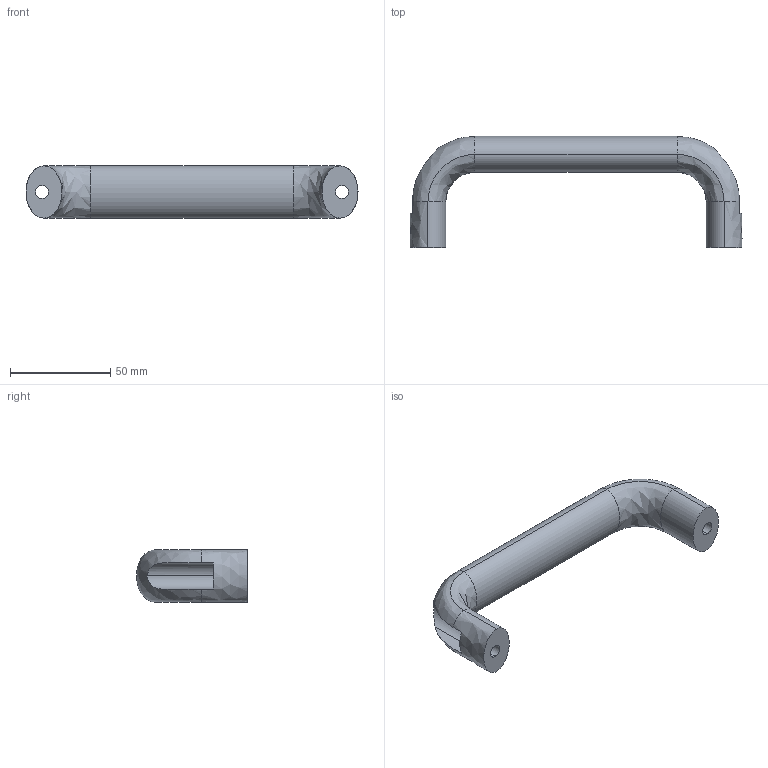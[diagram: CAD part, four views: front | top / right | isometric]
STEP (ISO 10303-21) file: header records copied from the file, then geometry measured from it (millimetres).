
FILE_DESCRIPTION (( 'STEP AP214' ), '1' );
FILE_NAME ('HDL2-06.STEP', '2014-10-15T05:10:38', ( '' ), ( '' ), 'SwSTEP 2.0', 'SolidWorks 2014', '' );
FILE_SCHEMA (( 'AUTOMOTIVE_DESIGN' ));
Length unit declared in the file: millimetre
Products named in the file (1): HDL2-06
Bounding box: 165.99 x 55.49 x 26 mm (x, y, z)
Volume: 71320.5 mm3; surface area: 17999.7 mm2
Topology: 1 solids, 1 shells, 31 faces, 73 edges, 46 vertices
Faces by surface type: bspline 10, plane 10, cylinder 7, cone 4
Entity records: 1079 total; most frequent: CARTESIAN_POINT 392, ORIENTED_EDGE 146, DIRECTION 125, EDGE_CURVE 73, AXIS2_PLACEMENT_3D 49, VERTEX_POINT 46, EDGE_LOOP 37, FACE_OUTER_BOUND 31
